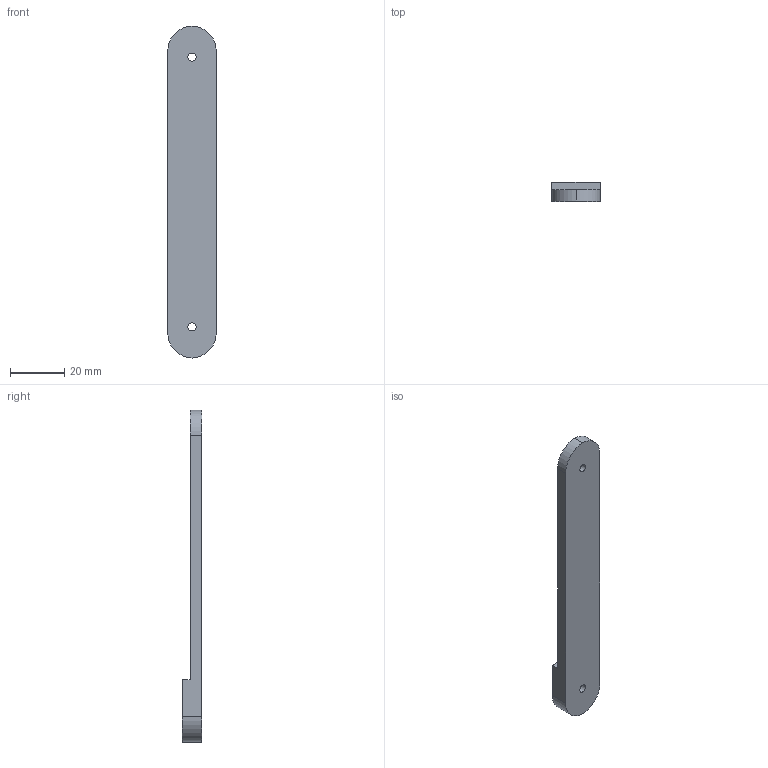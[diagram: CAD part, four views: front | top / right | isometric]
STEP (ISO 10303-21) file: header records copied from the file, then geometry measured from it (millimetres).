
FILE_DESCRIPTION(('STEP AP242 Edition 2','STEP AP242 Edition 2''CAx-IF Rec.Pracs.---Representation and Presentation of Product Manufacturing Information (PMI)---4.0---2014-10-13','STEP AP242 Edition 2''CAx-IF Rec.Pracs.---Representation and Presentation of Product Manufacturing Information (PMI)---4.0---2014-10-13''CAx-IF Rec.Pracs.---3D Tessellated Geometry---0.4---2014-09-14','STEP AP242 Edition 2''CAx-IF Rec.Pracs.---Representation and Presentation of Product Manufacturing Information (PMI)---4.0---2014-10-13''CAx-IF Rec.Pracs.---3D Tessellated Geometry---0.4---2014-09-14''2;1','STEP AP242 Edition 2''CAx-IF Rec.Pracs.---Representation and Presentation of Product Manufacturing Information (PMI)---4.0---2014-10-13''CAx-IF Rec.Pracs.---3D Tessellated Geometry---0.4---2014-09-14''2;1''CAx-IF Rec.Pracs.---User Defined Attributes---1.5---2016-08-15'),'2;1');
FILE_NAME('/vol/tmp/translate-11547912857634007430/Part Studio 2 - Part 1.step','2026-03-05T22:47:11',(''),(''),'ST-DEVELOPER v20','ONSHAPE BY PTC INC, 1.211',' ');
FILE_SCHEMA(('AP242_MANAGED_MODEL_BASED_3D_ENGINEERING_MIM_LF { 1 0 10303 442 3 1 4 }'));
Length unit declared in the file: metre
Products named in the file (1): Part 1
Bounding box: 17.8 x 7 x 121.91 mm (x, y, z)
Volume: 9763.6 mm3; surface area: 5583.2 mm2
Topology: 1 solids, 1 shells, 12 faces, 30 edges, 20 vertices
Faces by surface type: plane 6, cylinder 6
Full cylindrical faces by diameter (mm): 3 x2
Entity records: 386 total; most frequent: DIRECTION 66, CARTESIAN_POINT 61, ORIENTED_EDGE 56, EDGE_CURVE 28, AXIS2_PLACEMENT_3D 25, VERTEX_POINT 20, EDGE_LOOP 18, FACE_BOUND 18
